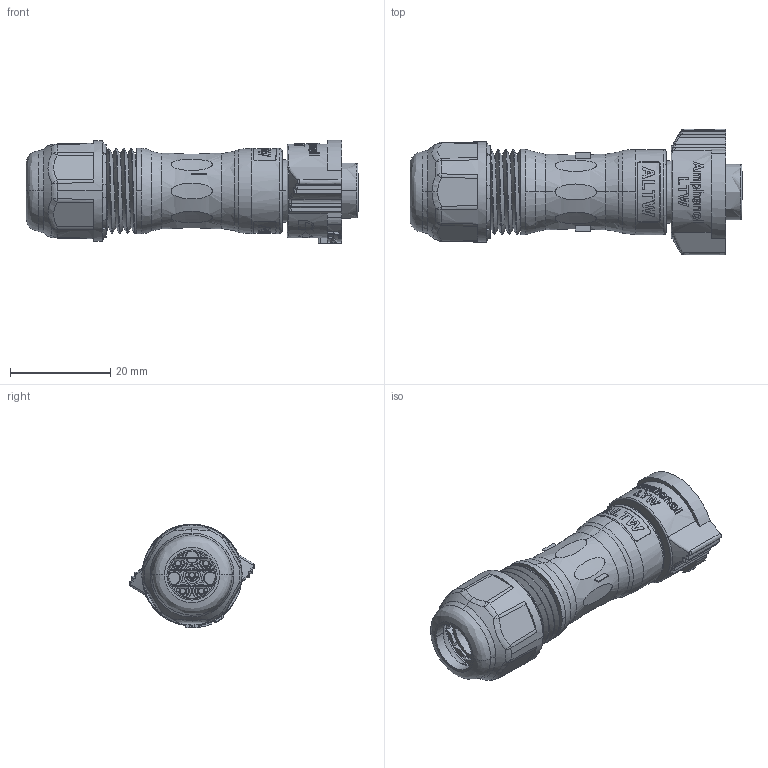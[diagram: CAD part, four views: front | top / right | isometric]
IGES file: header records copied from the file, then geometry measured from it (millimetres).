
Start section:  PTC IGES file: bd-05bffa-ql8ap0.igs
Global section: file name: bd-05bffa-ql8ap0.igs; native system: Creo Parametric by Parametric Technology Corporation; preprocessor: 2017170; author: L210023; organization: Unknown; date: 20210902.173337; units: millimetre
Bounding box: 66.2 x 25 x 20.7 mm (x, y, z)
Volume: 10256.3 mm3; surface area: 12366 mm2
Topology: 1 solids, 1 shells, 2739 faces, 7558 edges, 4872 vertices
Faces by surface type: bspline 2739
